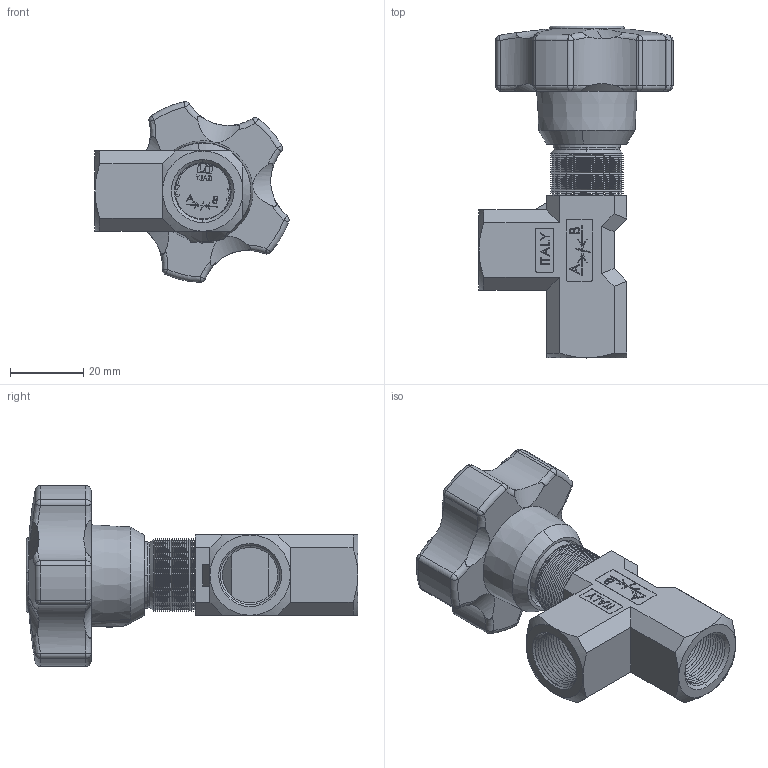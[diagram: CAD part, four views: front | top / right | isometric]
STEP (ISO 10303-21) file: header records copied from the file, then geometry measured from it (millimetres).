
FILE_DESCRIPTION (( 'STEP AP214' ), '1' );
FILE_NAME ('2252-2-38 VOLANTINO ABS F-F.STEP', '2015-05-19T15:14:49', ( '' ), ( '' ), 'SwSTEP 2.0', 'SolidWorks 2014', '' );
FILE_SCHEMA (( 'AUTOMOTIVE_DESIGN' ));
Length unit declared in the file: millimetre
Products named in the file (1): 2252-2-38 VOLANTINO ABS F-F
Bounding box: 53.12 x 90.84 x 49.48 mm (x, y, z)
Surface area: 16784.5 mm2 (no closed solid volume)
Topology: 0 solids, 29 shells, 566 faces, 1898 edges, 1297 vertices
Faces by surface type: plane 199, cone 176, cylinder 75, bspline 65, sphere 28, torus 23
Entity records: 31251 total; most frequent: CARTESIAN_POINT 9352, DIRECTION 3081, ORIENTED_EDGE 3034, EDGE_CURVE 1882, VERTEX_POINT 1289, LINE 1105, VECTOR 1105, AXIS2_PLACEMENT_3D 988
